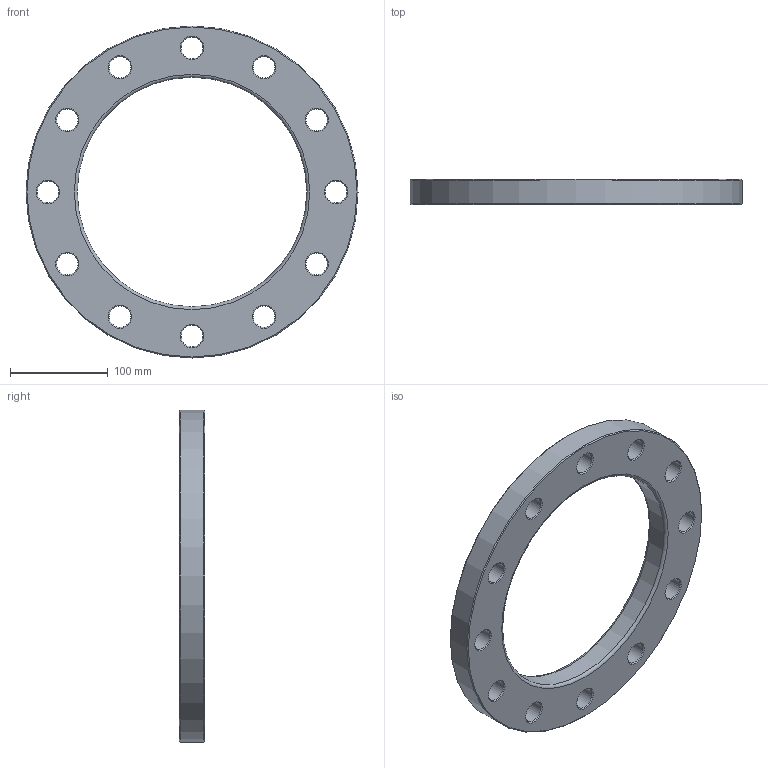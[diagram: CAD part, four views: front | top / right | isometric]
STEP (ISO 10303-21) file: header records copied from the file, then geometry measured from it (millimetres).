
FILE_DESCRIPTION(/* description */ ('Unknown'),/* implementation_level */ '2;1');
FILE_NAME(/* name */ 'FR200C',/* time_stamp */ '2022-07-05T16:59:55+02:00',/* author */ ('Unknown'),/* organization */ ('Unknown'),/* preprocessor_version */ 'ST-DEVELOPER v18.102',/* originating_system */ 'Solid Edge',/* authorisation */ 'Unknown');
FILE_SCHEMA (('AUTOMOTIVE_DESIGN {1 0 10303 214 3 1 1}'));
Length unit declared in the file: millimetre
Products named in the file (1): FR200C
Bounding box: 340 x 26 x 340 mm (x, y, z)
Volume: 1109488.7 mm3; surface area: 150156.7 mm2
Topology: 1 solids, 1 shells, 44 faces, 134 edges, 92 vertices
Faces by surface type: cone 26, cylinder 14, plane 2, torus 2
Full cylindrical faces by diameter (mm): 22 x12, 235 x1, 340 x1
Entity records: 1086 total; most frequent: DIRECTION 202, CARTESIAN_POINT 157, ORIENTED_EDGE 112, EDGE_LOOP 112, FACE_BOUND 112, AXIS2_PLACEMENT_3D 101, EDGE_CURVE 56, VERTEX_POINT 56
